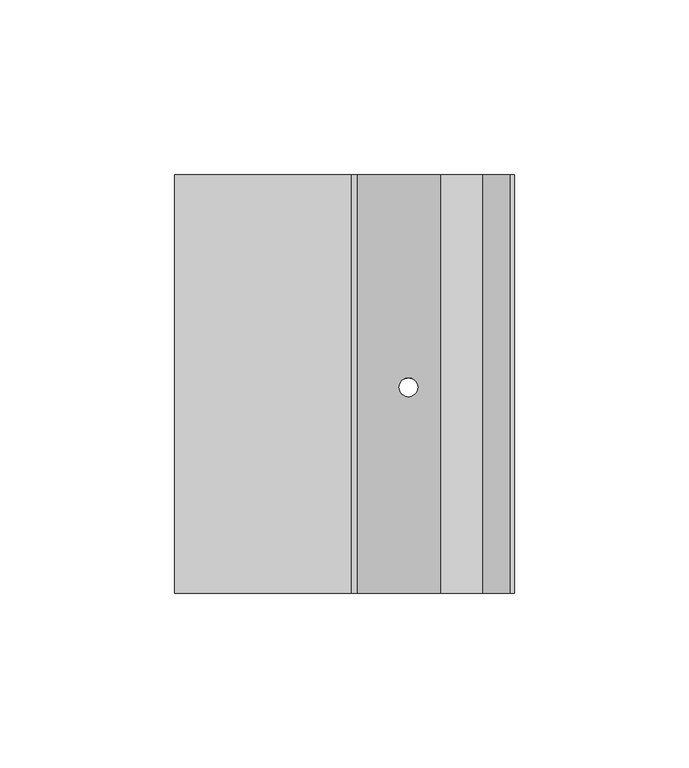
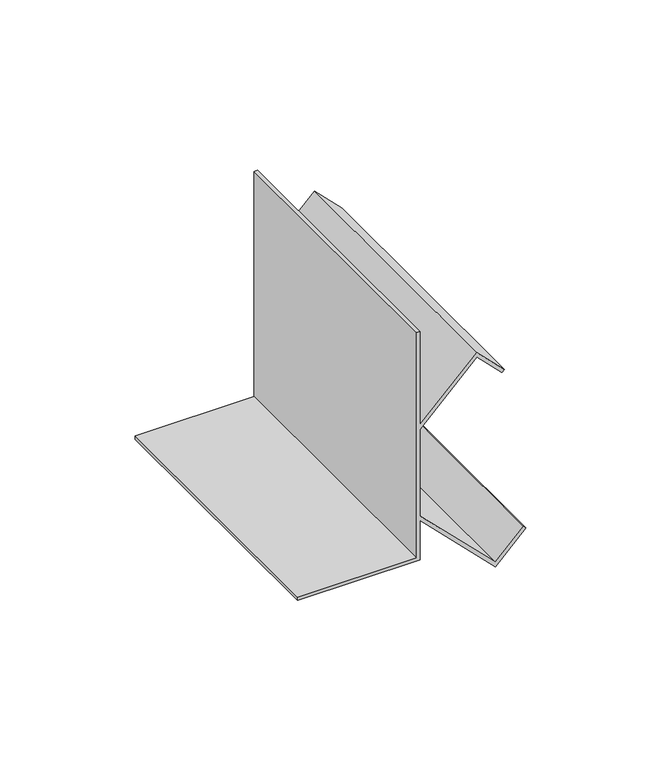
"""IFC4 building model written with IfcOpenShell, lengths in millimetres: proxy geometry, Mechanical Fittings & Accessories27 : Mechanical Fittings & Accessories."""

from ifc_helpers import new_model, si_unit, frame, origin, place, context, project, spatial, polyline, ellipse_curve, source, transform, mapped, element, save
from ifc_brep_helpers import plane_surface, revolved_surface, advanced_brep


def generic_models_7d2c6af9(model_context):
    return source(origin(), model_context, "Body", "AdvancedBrep", [
        advanced_brep(
        [(-13439.8639562, 8294.4963986, 4114.8), (-13490.6639562, 8294.4963986, 4114.8), (-13490.6639562, 8294.4963986, 4113.3117188), (-13438.375675, 8294.4963986, 4113.3117188), (-13438.375675, 8294.4963986, 4131.1383509), (-13406.265914, 8294.4963986, 4099.0285899), (-13393.2869427, 8294.4963986, 4112.0075612), (-13394.3393164, 8294.4963986, 4113.059935), (-13406.265914, 8294.4963986, 4101.1333374), (-13438.375675, 8294.4963986, 4133.2430984), (-13438.375675, 8294.4963986, 4172.2761118), (-13414.203414, 8294.4963986, 4196.4483729), (-13403.4674414, 8294.4963986, 4185.7124003), (-13402.4150677, 8294.4963986, 4186.7647741), (-13414.203414, 8294.4963986, 4198.5531204), (-13438.375675, 8294.4963986, 4174.3808594), (-13438.375675, 8294.4963986, 4216.4), (-13439.8639562, 8294.4963986, 4216.4), (-13439.8639562, 8414.4645457, 4114.8), (-13439.8639562, 8414.4645457, 4216.4), (-13438.375675, 8414.4645457, 4216.4), (-13438.375675, 8414.4645457, 4174.3808594), (-13414.203414, 8414.4645457, 4198.5531204), (-13402.4150677, 8414.4645457, 4186.7647741), (-13403.4674414, 8414.4645457, 4185.7124003), (-13414.203414, 8414.4645457, 4196.4483729), (-13438.375675, 8414.4645457, 4172.2761118), (-13438.375675, 8414.4645457, 4133.2430984), (-13406.265914, 8414.4645457, 4101.1333374), (-13394.3393164, 8414.4645457, 4113.059935), (-13393.2869427, 8414.4645457, 4112.0075612), (-13406.265914, 8414.4645457, 4099.0285899), (-13438.375675, 8414.4645457, 4131.1383509), (-13438.375675, 8414.4645457, 4113.3117188), (-13490.6639562, 8414.4645457, 4113.3117188), (-13490.6639562, 8414.4645457, 4114.8), (-13426.2617646, 8353.5191481, 4119.0244406), (-13420.9223978, 8353.5191481, 4113.6850737), (-13420.9223978, 8353.5191481, 4115.7898213), (-13426.2617646, 8353.5191481, 4121.1291881), (-13426.2617646, 8353.5191481, 4184.3900222), (-13420.9223978, 8353.5191481, 4189.729389), (-13420.9223978, 8353.5191481, 4191.8341365), (-13426.2617646, 8353.5191481, 4186.4947697)],
        [
            (0, 1),
            (1, 2),
            (2, 3),
            (3, 4),
            (4, 5),
            (5, 6),
            (6, 7),
            (7, 8),
            (8, 9),
            (9, 10),
            (10, 11),
            (11, 12),
            (12, 13),
            (13, 14),
            (14, 15),
            (15, 16),
            (16, 17),
            (17, 0),
            (18, 19),
            (19, 20),
            (20, 21),
            (21, 22),
            (22, 23),
            (23, 24),
            (24, 25),
            (25, 26),
            (26, 27),
            (27, 28),
            (28, 29),
            (29, 30),
            (30, 31),
            (31, 32),
            (32, 33),
            (33, 34),
            (34, 35),
            (35, 18),
            (0, 18),
            (35, 1),
            (34, 2),
            (33, 3),
            (32, 4),
            (31, 5),
            (36, 37, ellipse_curve(frame((-13423.5920812, 8353.5191481, 4116.3547571), z_axis=(0.7071067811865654, 0.0, 0.7071067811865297), x_axis=(-0.7071067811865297, 0.0, 0.7071067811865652)), 3.7755025, 2.6696834)),
            (37, 36, ellipse_curve(frame((-13423.5920812, 8353.5191481, 4116.3547571), z_axis=(0.7071067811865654, 0.0, 0.7071067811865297), x_axis=(-0.7071067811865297, 0.0, 0.7071067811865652)), 3.7755025, 2.6696834)),
            (30, 6),
            (29, 7),
            (28, 8),
            (27, 9),
            (38, 39, ellipse_curve(frame((-13423.5920812, 8353.5191481, 4118.4595047), z_axis=(-0.7071067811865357, 0.0, -0.7071067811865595), x_axis=(-0.7071067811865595, 0.0, 0.7071067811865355)), 3.7755025, 2.6696834)),
            (39, 38, ellipse_curve(frame((-13423.5920812, 8353.5191481, 4118.4595047), z_axis=(-0.7071067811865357, 0.0, -0.7071067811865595), x_axis=(-0.7071067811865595, 0.0, 0.7071067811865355)), 3.7755025, 2.6696834)),
            (26, 10),
            (25, 11),
            (40, 41, ellipse_curve(frame((-13423.5920812, 8353.5191481, 4187.0597056), z_axis=(-0.7071067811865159, 0.0, 0.7071067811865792), x_axis=(0.7071067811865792, 0.0, 0.7071067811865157)), 3.7755025, 2.6696834)),
            (41, 40, ellipse_curve(frame((-13423.5920812, 8353.5191481, 4187.0597056), z_axis=(-0.7071067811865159, 0.0, 0.7071067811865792), x_axis=(0.7071067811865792, 0.0, 0.7071067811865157)), 3.7755025, 2.6696834)),
            (24, 12),
            (23, 13),
            (22, 14),
            (21, 15),
            (42, 43, ellipse_curve(frame((-13423.5920812, 8353.5191481, 4189.1644531), z_axis=(0.7071067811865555, 0.0, -0.7071067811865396), x_axis=(0.7071067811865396, 0.0, 0.7071067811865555)), 3.7755025, 2.6696834)),
            (43, 42, ellipse_curve(frame((-13423.5920812, 8353.5191481, 4189.1644531), z_axis=(0.7071067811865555, 0.0, -0.7071067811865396), x_axis=(0.7071067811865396, 0.0, 0.7071067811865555)), 3.7755025, 2.6696834)),
            (20, 16),
            (19, 17),
            (36, 39),
            (38, 37),
            (40, 43),
            (42, 41),
        ],
        [
            plane_surface(frame((-13490.6639562, 8294.4963986, 4114.8), z_axis=(0.0, -1.0, 0.0), x_axis=(-1.0, 0.0, 0.0))),
            plane_surface(frame((-13490.6639562, 8414.4645457, 4114.8), z_axis=(0.0, 1.0, 0.0), x_axis=(1.0, 0.0, 0.0))),
            plane_surface(frame((-13439.8639562, 8294.4963986, 4114.8), z_axis=(0.0, 0.0, 1.0), x_axis=(0.0, 1.0, 0.0))),
            plane_surface(frame((-13490.6639562, 8294.4963986, 4114.8), z_axis=(-1.0, 0.0, 0.0), x_axis=(0.0, 1.0, 0.0))),
            plane_surface(frame((-13490.6639562, 8294.4963986, 4113.3117188), z_axis=(0.0, 0.0, -1.0), x_axis=(0.0, 1.0, 0.0))),
            plane_surface(frame((-13438.375675, 8294.4963986, 4113.3117188), z_axis=(1.0, 0.0, 0.0), x_axis=(0.0, 1.0, 0.0))),
            plane_surface(frame((-13438.375675, 8294.4963986, 4131.1383509), z_axis=(-0.7071067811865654, 0.0, -0.7071067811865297), x_axis=(0.0, 1.0, 0.0))),
            plane_surface(frame((-13406.265914, 8294.4963986, 4099.0285899), z_axis=(0.7071067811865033, 0.0, -0.7071067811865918), x_axis=(0.0, 1.0, 0.0))),
            plane_surface(frame((-13393.2869427, 8294.4963986, 4112.0075612), z_axis=(0.7071067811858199, 0.0, 0.7071067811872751), x_axis=(0.0, 1.0, 0.0))),
            plane_surface(frame((-13394.3393164, 8294.4963986, 4113.059935), z_axis=(-0.7071067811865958, 0.0, 0.7071067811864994), x_axis=(0.0, 1.0, 0.0))),
            plane_surface(frame((-13406.265914, 8294.4963986, 4101.1333374), z_axis=(0.7071067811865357, 0.0, 0.7071067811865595), x_axis=(0.0, 1.0, 0.0))),
            plane_surface(frame((-13438.375675, 8294.4963986, 4133.2430984), z_axis=(1.0, 0.0, 0.0), x_axis=(0.0, 1.0, 0.0))),
            plane_surface(frame((-13438.375675, 8294.4963986, 4172.2761118), z_axis=(0.7071067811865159, 0.0, -0.7071067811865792), x_axis=(0.0, 1.0, 0.0))),
            plane_surface(frame((-13414.203414, 8294.4963986, 4196.4483729), z_axis=(-0.7071067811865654, 0.0, -0.7071067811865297), x_axis=(0.0, 1.0, 0.0))),
            plane_surface(frame((-13403.4674414, 8294.4963986, 4185.7124003), z_axis=(0.7071067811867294, 0.0, -0.7071067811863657), x_axis=(0.0, 1.0, 0.0))),
            plane_surface(frame((-13402.4150677, 8294.4963986, 4186.7647741), z_axis=(0.7071067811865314, 0.0, 0.7071067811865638), x_axis=(0.0, 1.0, 0.0))),
            plane_surface(frame((-13414.203414, 8294.4963986, 4198.5531204), z_axis=(-0.7071067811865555, 0.0, 0.7071067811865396), x_axis=(0.0, 1.0, 0.0))),
            plane_surface(frame((-13438.375675, 8294.4963986, 4174.3808594), z_axis=(1.0, 0.0, 0.0), x_axis=(0.0, 1.0, 0.0))),
            plane_surface(frame((-13438.375675, 8294.4963986, 4216.4), z_axis=(0.0, 0.0, 1.0), x_axis=(0.0, 1.0, 0.0))),
            plane_surface(frame((-13439.8639562, 8294.4963986, 4216.4), z_axis=(-1.0, 0.0, 0.0), x_axis=(0.0, 1.0, 0.0))),
            revolved_surface(polyline([(-13420.9223978, 8353.5191481, 4121.129188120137), (-13420.9223978, 8353.5191481, 4113.685073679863)]), (-13423.5920812, 8353.5191481, 4097.2034211), (0.0, 0.0, 1.0)),
            revolved_surface(polyline([(-13420.9223978, 8353.5191481, 4191.834136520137), (-13420.9223978, 8353.5191481, 4184.390022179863)]), (-13423.5920812, 8353.5191481, 4097.2034211), (0.0, 0.0, 1.0)),
        ],
        [
            (0, [[1, 2, 3, 4, 5, 6, 7, 8, 9, 10, 11, 12, 13, 14, 15, 16, 17, 18]]),
            (1, [[19, 20, 21, 22, 23, 24, 25, 26, 27, 28, 29, 30, 31, 32, 33, 34, 35, 36]]),
            (2, [[-1, 37, -36, 38]]),
            (3, [[-2, -38, -35, 39]]),
            (4, [[-3, -39, -34, 40]]),
            (5, [[-4, -40, -33, 41]]),
            (6, [[-5, -41, -32, 42], [43, 44]]),
            (7, [[-6, -42, -31, 45]]),
            (8, [[-7, -45, -30, 46]]),
            (9, [[-8, -46, -29, 47]]),
            (10, [[-9, -47, -28, 48], [49, 50]]),
            (11, [[-10, -48, -27, 51]]),
            (12, [[-11, -51, -26, 52], [53, 54]]),
            (13, [[-12, -52, -25, 55]]),
            (14, [[-13, -55, -24, 56]]),
            (15, [[-14, -56, -23, 57]]),
            (16, [[-15, -57, -22, 58], [59, 60]]),
            (17, [[-16, -58, -21, 61]]),
            (18, [[-17, -61, -20, 62]]),
            (19, [[-18, -62, -19, -37]]),
            (20, [[63, -49, 64, -43]]),
            (21, [[65, -59, 66, -53]]),
            (20, [[-63, -44, -64, -50]]),
            (21, [[-65, -54, -66, -60]]),
        ],
    ),
    ])


if __name__ == "__main__":
    model = new_model("IFC4")
    model_context = context("Model", 3, world=origin())
    ifc_project = project(units=[si_unit("LENGTHUNIT", "METRE", prefix="MILLI")], contexts=[model_context])
    site = spatial("IfcSite", under=ifc_project)
    building = spatial("IfcBuilding", under=site)
    placement = place(None, origin())
    generic_models_shape = generic_models_7d2c6af9(model_context)
    element("IfcBuildingElementProxy", 1, Name="Mechanical Fittings & Accessories27 : Mechanical Fittings & Accessories", ObjectType="Mechanical Fittings & Accessories27 : Mechanical Fittings & Accessories", at=placement, inside=building, context=model_context, shape_type="MappedRepresentation", body=[
        mapped(generic_models_shape, transform((0.0, 0.0, 0.0), x_axis=(1.0, 0.0, 0.0), y_axis=(0.0, 1.0, 0.0), z_axis=(0.0, 0.0, 1.0))),
    ])
    save(model, "model.ifc")
